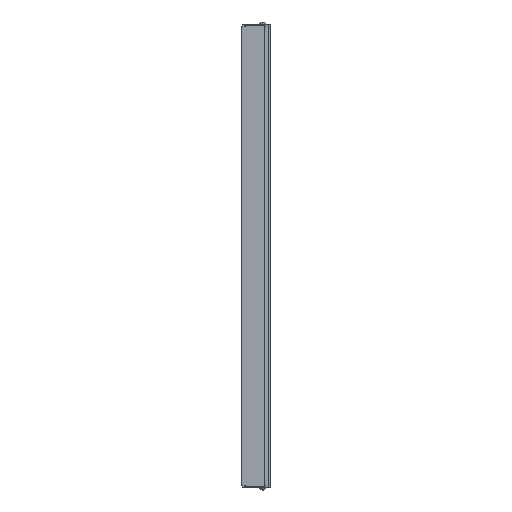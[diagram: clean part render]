
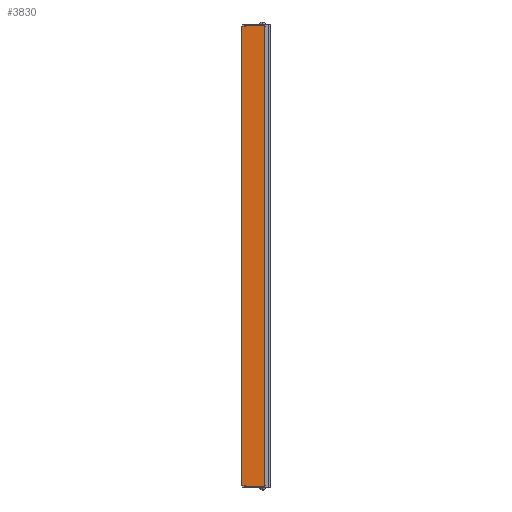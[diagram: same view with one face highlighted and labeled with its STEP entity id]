
A CAD part, left-side view. The second image highlights one B-rep face of the part: STEP entity #3830.
In plain terms, the highlighted planar face has unit normal (-1, 0, 0).
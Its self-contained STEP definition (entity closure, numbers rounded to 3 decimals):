
#466=DIRECTION('',(0.,1.,0.));
#467=VECTOR('',#466,3.303);
#468=CARTESIAN_POINT('',(-14.,13.197,207.));
#469=LINE('',#468,#467);
#839=DIRECTION('',(0.,1.,0.));
#840=VECTOR('',#839,17.497);
#841=CARTESIAN_POINT('',(-14.,-4.3,208.));
#842=LINE('',#841,#840);
#847=DIRECTION('',(0.,0.,1.));
#848=VECTOR('',#847,416.);
#849=CARTESIAN_POINT('',(-14.,-4.3,-208.));
#850=LINE('',#849,#848);
#1202=DIRECTION('',(0.,0.,-1.));
#1203=VECTOR('',#1202,414.);
#1204=CARTESIAN_POINT('',(-14.,16.5,207.));
#1205=LINE('',#1204,#1203);
#1206=DIRECTION('',(0.,0.,1.));
#1207=VECTOR('',#1206,1.);
#1208=CARTESIAN_POINT('',(-14.,13.197,-208.));
#1209=LINE('',#1208,#1207);
#1210=DIRECTION('',(0.,1.,0.));
#1211=VECTOR('',#1210,3.303);
#1212=CARTESIAN_POINT('',(-14.,13.197,-207.));
#1213=LINE('',#1212,#1211);
#1214=DIRECTION('',(0.,0.,1.));
#1215=VECTOR('',#1214,1.);
#1216=CARTESIAN_POINT('',(-14.,13.197,207.));
#1217=LINE('',#1216,#1215);
#1222=DIRECTION('',(0.,-1.,0.));
#1223=VECTOR('',#1222,17.497);
#1224=CARTESIAN_POINT('',(-14.,13.197,-208.));
#1225=LINE('',#1224,#1223);
#1810=CARTESIAN_POINT('',(-14.,16.5,-207.));
#1811=VERTEX_POINT('',#1810);
#1820=CARTESIAN_POINT('',(-14.,16.5,207.));
#1821=VERTEX_POINT('',#1820);
#2026=CARTESIAN_POINT('',(-14.,13.197,208.));
#2027=VERTEX_POINT('',#2026);
#2052=CARTESIAN_POINT('',(-14.,-4.3,208.));
#2053=VERTEX_POINT('',#2052);
#2098=CARTESIAN_POINT('',(-14.,13.197,207.));
#2100=VERTEX_POINT('',#2098);
#2284=CARTESIAN_POINT('',(-14.,13.197,-208.));
#2285=VERTEX_POINT('',#2284);
#2286=CARTESIAN_POINT('',(-14.,-4.3,-208.));
#2287=VERTEX_POINT('',#2286);
#2328=CARTESIAN_POINT('',(-14.,13.197,-207.));
#2329=VERTEX_POINT('',#2328);
#3813=CARTESIAN_POINT('',(-14.,16.5,-207.));
#3814=DIRECTION('',(-1.,0.,0.));
#3815=DIRECTION('',(0.,-1.,0.));
#3816=AXIS2_PLACEMENT_3D('',#3813,#3814,#3815);
#3817=PLANE('',#3816);
#3818=ORIENTED_EDGE('',*,*,#3213,.F.);
#3820=ORIENTED_EDGE('',*,*,#3819,.F.);
#3822=ORIENTED_EDGE('',*,*,#3821,.T.);
#3823=ORIENTED_EDGE('',*,*,#2447,.T.);
#3824=ORIENTED_EDGE('',*,*,#3808,.F.);
#3825=ORIENTED_EDGE('',*,*,#2856,.F.);
#3826=ORIENTED_EDGE('',*,*,#3183,.T.);
#3827=ORIENTED_EDGE('',*,*,#3198,.F.);
#3828=EDGE_LOOP('',(#3818,#3820,#3822,#3823,#3824,#3825,#3826,#3827));
#3829=FACE_OUTER_BOUND('',#3828,.F.);
#2447=EDGE_CURVE('',#2329,#1811,#1213,.T.);
#2856=EDGE_CURVE('',#2100,#1821,#469,.T.);
#3183=EDGE_CURVE('',#2100,#2027,#1217,.T.);
#3198=EDGE_CURVE('',#2053,#2027,#842,.T.);
#3213=EDGE_CURVE('',#2287,#2053,#850,.T.);
#3808=EDGE_CURVE('',#1821,#1811,#1205,.T.);
#3819=EDGE_CURVE('',#2285,#2287,#1225,.T.);
#3821=EDGE_CURVE('',#2285,#2329,#1209,.T.);
#3830=ADVANCED_FACE('',(#3829),#3817,.T.);
